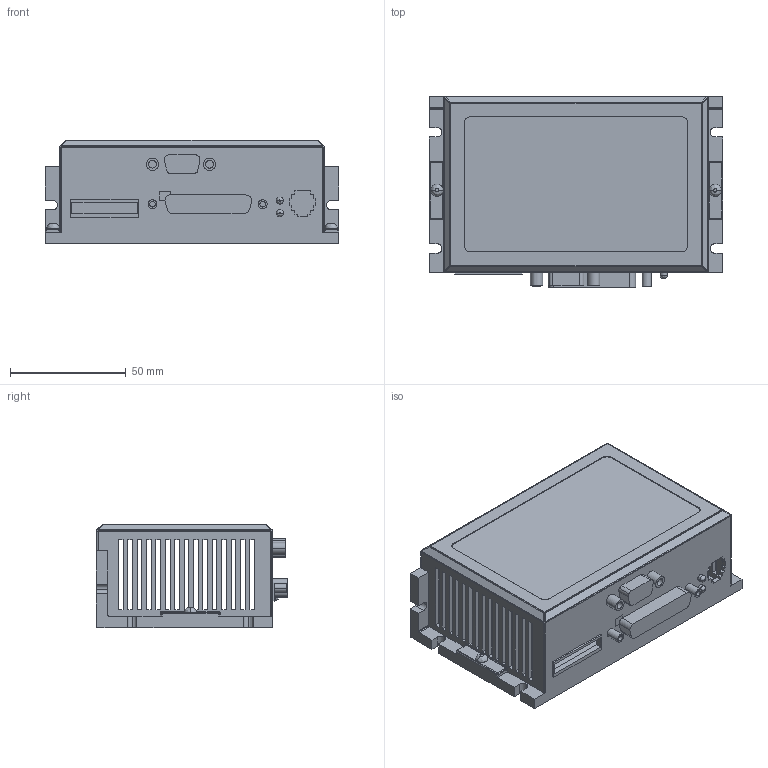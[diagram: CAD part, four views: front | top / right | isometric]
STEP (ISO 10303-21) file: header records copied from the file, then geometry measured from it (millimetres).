
FILE_DESCRIPTION((''),'2;1');
FILE_NAME('CU_SMD-7613-7614-7615-7616','2014-08-01T',('jbuhisan'),(''),'PRO/ENGINEER BY PARAMETRIC TECHNOLOGY CORPORATION, 2014000','PRO/ENGINEER BY PARAMETRIC TECHNOLOGY CORPORATION, 2014000','');
FILE_SCHEMA(('CONFIG_CONTROL_DESIGN'));
Length unit declared in the file: centimetre
Products named in the file (1): CU_SMD-7613-7614-7615-7616
Bounding box: 127 x 82.77 x 45.01 mm (x, y, z)
Volume: 99207.8 mm3; surface area: 67763.4 mm2
Topology: 1 solids, 1 shells, 402 faces, 1098 edges, 702 vertices
Faces by surface type: plane 234, cylinder 135, sphere 12, bspline 12, torus 8, extrusion 1
Entity records: 13206 total; most frequent: CARTESIAN_POINT 2816, ORIENTED_EDGE 2172, DIRECTION 2102, EDGE_CURVE 1086, VECTOR 776, LINE 775, VERTEX_POINT 702, AXIS2_PLACEMENT_3D 663
